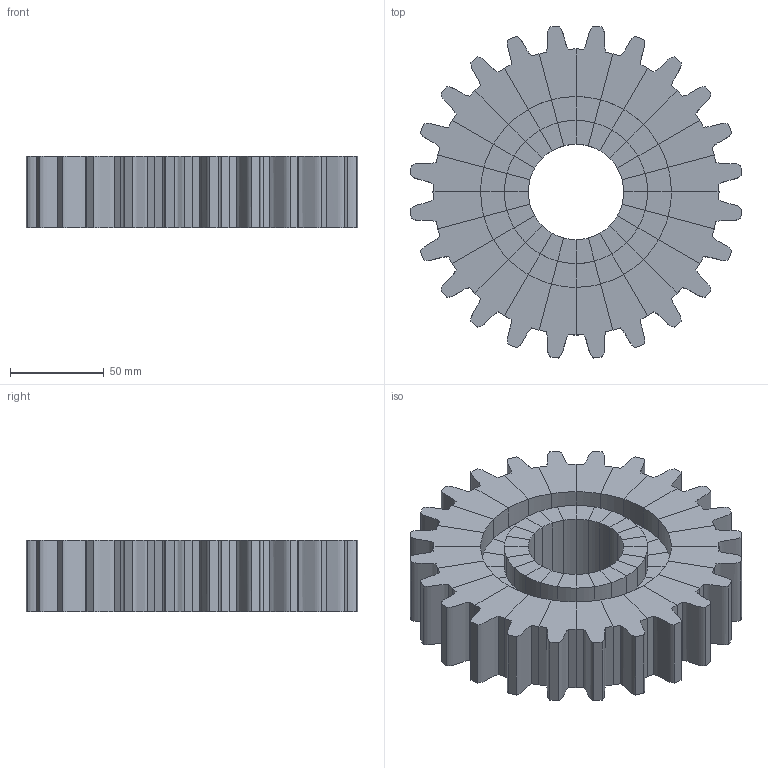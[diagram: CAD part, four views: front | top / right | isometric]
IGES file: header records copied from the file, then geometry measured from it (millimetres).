
Start section: geometric model /COM,ANSYS RELEASE  9.0    UP20041104       10:38:00    12/31/2005 /NOPR /PREP7 /TITLE,geometric model DOF,UX,UY,UZ, BFUNIF,TEMP,_TINY KUSE,0 TIME,0.00000000 TREF,0.00000000 ALPHAD,0.00000000 BETAD,0.00000000 DMPRAT,0.00000000 CRPLIM,0.100000000,0 CRPLIM,0.00000000,1 NCNV,1,0.00000000,0,0.00000000,0.00000000 NEQIT,0 ERESX,DEFA ACEL,0.00000000,0.00000000,0.00000000 OMEGA,0.00000000,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
Global section: file name: rear; native system: ANSYS; preprocessor:   9.0      UP20041104; date: 001231.103800
Bounding box: 176.83 x 176.83 x 38.1 mm (x, y, z)
Volume: 675430.1 mm3; surface area: 172609.5 mm2
Topology: 24 solids, 24 shells, 336 faces, 864 edges, 592 vertices
Faces by surface type: bspline 336
